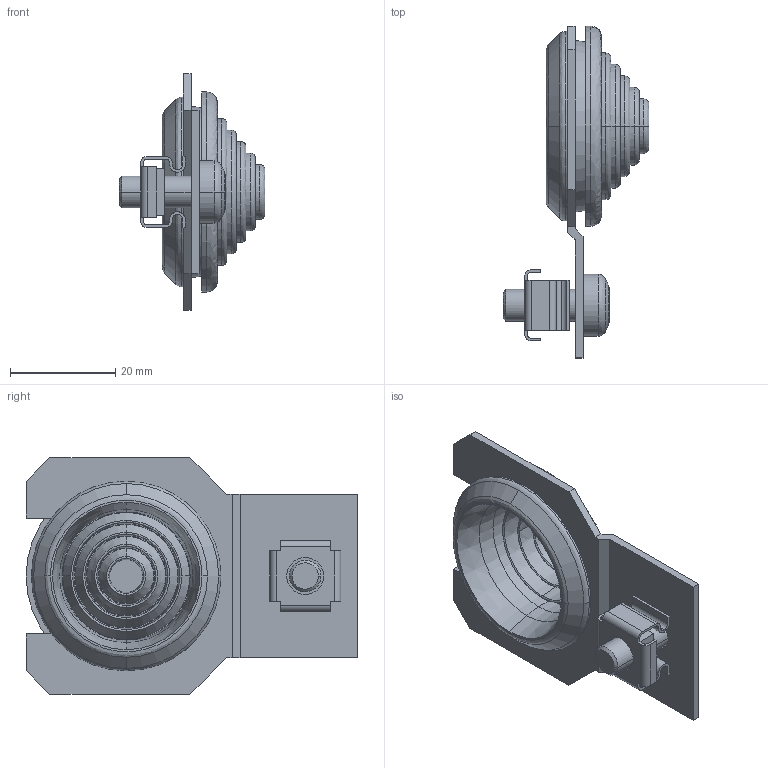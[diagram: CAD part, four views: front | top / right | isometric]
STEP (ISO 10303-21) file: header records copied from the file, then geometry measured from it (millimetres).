
FILE_DESCRIPTION (( 'STEP AP214' ), '1' );
FILE_NAME ('FO-00-VK Êîìïëåêò âûâîäà æãóãà íà ñïëîøíóþ äâåðü.STEP', '2025-09-30T11:05:55', ( '' ), ( '' ), 'SwSTEP 2.0', 'SolidWorks 2023', '' );
FILE_SCHEMA (( 'AUTOMOTIVE_DESIGN' ));
Length unit declared in the file: millimetre
Products named in the file (5): Screw_DIN_7500_M6x16_Torx_T30; Сальник_IEK 201.003_серый_YSA40-25-32-68-K41; Гайка кузовная М6; Format_Заглушка жгута пластрона_пластроны_ver.2; FO-00-VK Комплект вывода жгуга на сплошную дверь
Assembly tree (4 placements, depth 2):
  FO-00-VK Комплект вывода жгуга на сплошную дверь
    Format_Заглушка жгута пластрона_пластроны_ver.2
    Сальник_IEK 201.003_серый_YSA40-25-32-68-K41
    Гайка кузовная М6
    Screw_DIN_7500_M6x16_Torx_T30
Bounding box: 27.71 x 63 x 45 mm (x, y, z)
Volume: 9393.6 mm3; surface area: 10798.8 mm2
Topology: 3 solids, 4 shells, 194 faces, 478 edges, 303 vertices
Faces by surface type: plane 75, cylinder 60, bspline 33, cone 26
Full cylindrical faces by diameter (mm): 6 x1
Entity records: 9358 total; most frequent: CARTESIAN_POINT 4732, ORIENTED_EDGE 948, DIRECTION 937, EDGE_CURVE 477, AXIS2_PLACEMENT_3D 350, VERTEX_POINT 304, LINE 237, VECTOR 237
